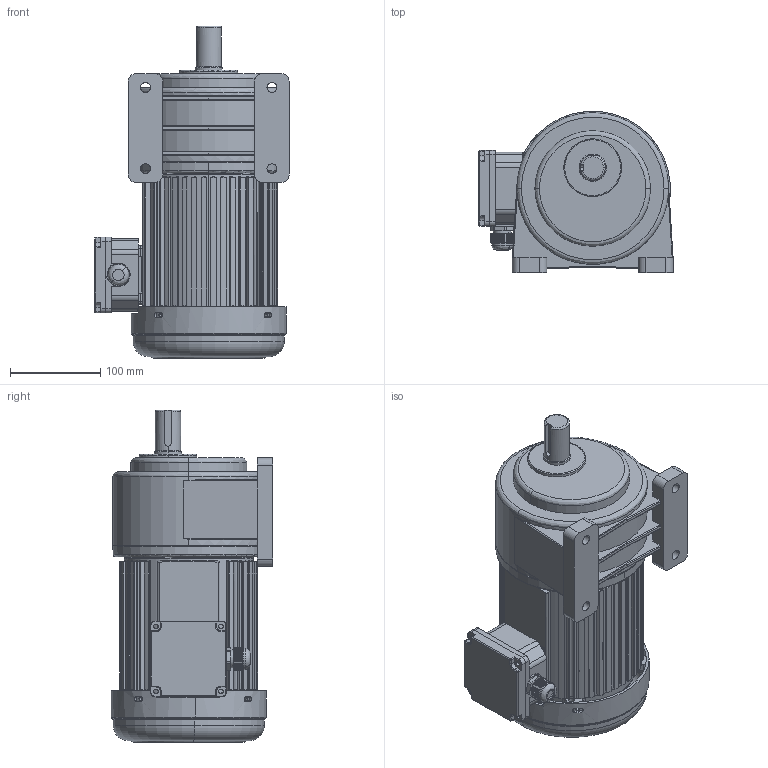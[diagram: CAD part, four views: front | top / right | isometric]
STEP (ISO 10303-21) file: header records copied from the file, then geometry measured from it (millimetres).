
FILE_DESCRIPTION (( 'STEP AP203' ), '1' );
FILE_NAME ('750W配3#卧式.STEP', '2019-06-14T08:02:57', ( '微软中国' ), ( '微软用户' ), 'SwSTEP 2.0', 'SolidWorks 2012', '' );
FILE_SCHEMA (( 'CONFIG_CONTROL_DESIGN' ));
Products named in the file (10): 750W饜3#拏宒; 3#拏宒熬厒ん; 3xg750w; 750W瑞欶; 釱菜; 750W 綴傷裔2_2; 坶踡ん 蚾饜; 蜊輛綴諉盄碟裔; 呿蹋諉盄碟; 儂褲 750W
Assembly tree (9 placements, depth 2):
  750W饜3#拏宒
    儂褲 750W
    呿蹋諉盄碟
    蜊輛綴諉盄碟裔
    坶踡ん 蚾饜
    750W 綴傷裔2_2
    釱菜
    750W瑞欶
    3xg750w
    3#拏宒熬厒ん
Bounding box: 215 x 178.86 x 367.63 mm (x, y, z)
Volume: 3220050.4 mm3; surface area: 689735 mm2
Topology: 8 solids, 10 shells, 2781 faces, 7222 edges, 4566 vertices
Faces by surface type: cylinder 1194, plane 780, bspline 477, torus 189, cone 133, sphere 8
Entity records: 115492 total; most frequent: CARTESIAN_POINT 49021, ORIENTED_EDGE 14390, DIRECTION 12719, EDGE_CURVE 7197, AXIS2_PLACEMENT_3D 4867, VERTEX_POINT 4566, EDGE_LOOP 3293, LINE 2985
